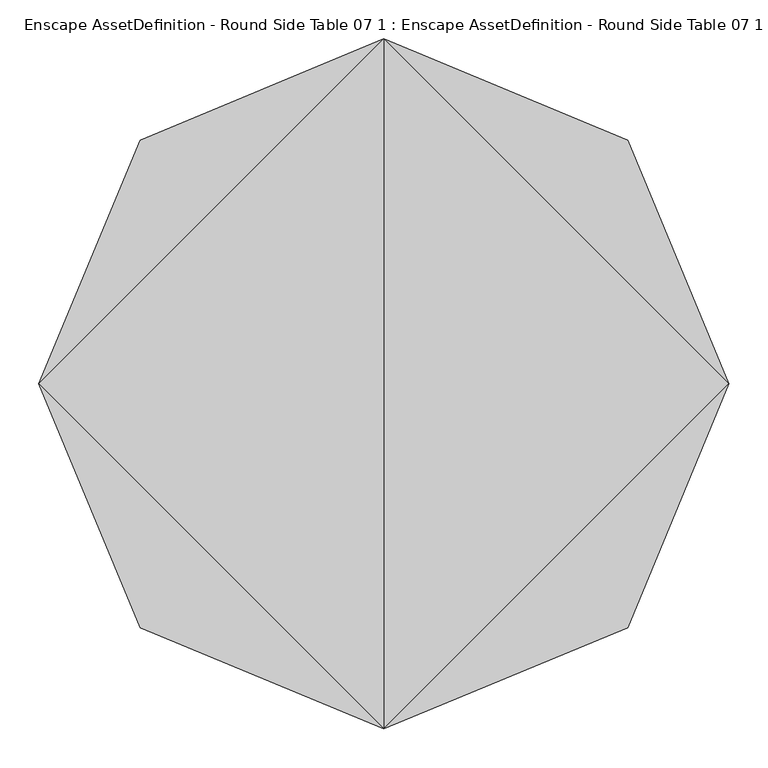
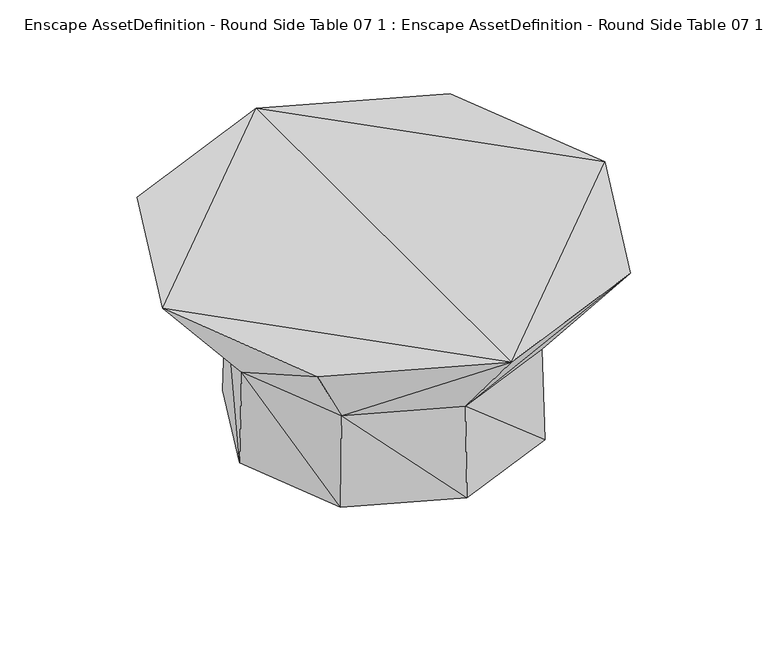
"""IFC4 building model written with IfcOpenShell, lengths in millimetres: geographic element geometry, Enscape AssetDefinition - Round Side Table 07 1 : Enscape AssetDefinition - Round Side Table 07 1."""

from ifc_helpers import new_model, si_unit, origin, place, context, project, spatial, faceted_brep, source, transform, mapped, element, save


def enscape_assetdefinition_round_side_table_07_1_enscape_1fe8cf10(model_context):
    return source(origin(), model_context, "Body", "Brep", [
        faceted_brep([(-288.9179885, 0.0, 0.0), (0.0, -288.9179885, 0.0), (-204.2962164, -204.2962164, 0.0), (288.9179885, 0.0, 0.0), (204.2962164, -204.2962164, 0.0), (-200.8368075, -200.8368075, 189.9999976), (0.0, -284.0257585, 189.9999976), (-284.0257585, 0.0, 189.9999976), (-312.9856586, -312.9856586, 379.9999952), (0.0, -442.6288009, 379.9999952), (200.8368075, -200.8368075, 189.9999976), (312.9856586, -312.9856586, 379.9999952), (284.0257585, 0.0, 189.9999976), (442.6288009, 0.0, 379.9999952), (-442.6288009, 0.0, 379.9999952), (0.0, 442.6288009, 379.9999952), (-312.9856586, 312.9856586, 379.9999952), (-200.8368075, 200.8368075, 189.9999976), (312.9856586, 312.9856586, 379.9999952), (200.8368075, 200.8368075, 189.9999976), (0.0, 284.0257585, 189.9999976), (204.2962164, 204.2962164, 0.0), (0.0, 288.9179885, 0.0), (-204.2962164, 204.2962164, 0.0)], [[[0, 1, 2]], [[3, 1, 0]], [[3, 4, 1]], [[5, 1, 6]], [[1, 5, 2]], [[4, 6, 1]], [[7, 2, 5]], [[2, 7, 0]], [[8, 7, 5]], [[5, 9, 8]], [[9, 5, 6]], [[6, 4, 10]], [[6, 11, 9]], [[11, 6, 10]], [[3, 10, 4]], [[10, 3, 12]], [[10, 13, 11]], [[13, 10, 12]], [[9, 11, 13]], [[9, 14, 8]], [[9, 15, 14]], [[9, 13, 15]], [[7, 8, 14]], [[14, 15, 16]], [[17, 14, 16]], [[14, 17, 7]], [[15, 13, 18]], [[19, 15, 18]], [[15, 19, 20]], [[20, 16, 15]], [[12, 18, 13]], [[18, 12, 19]], [[12, 21, 19]], [[19, 22, 20]], [[22, 19, 21]], [[20, 23, 17]], [[23, 20, 22]], [[16, 20, 17]], [[17, 0, 7]], [[0, 17, 23]], [[22, 0, 23]], [[3, 22, 21]], [[3, 0, 22]], [[21, 12, 3]]]),
    ])


if __name__ == "__main__":
    model = new_model("IFC4")
    model_context = context("Model", 3, world=origin())
    ifc_project = project(units=[si_unit("LENGTHUNIT", "METRE", prefix="MILLI")], contexts=[model_context])
    site = spatial("IfcSite", under=ifc_project)
    building = spatial("IfcBuilding", under=site)
    placement = place(None, origin())
    enscape_assetdefinition_round_side_table_07_1_enscape_shape = enscape_assetdefinition_round_side_table_07_1_enscape_1fe8cf10(model_context)
    element("IfcGeographicElement", 1, ObjectType="Enscape AssetDefinition - Round Side Table 07 1 : Enscape AssetDefinition - Round Side Table 07 1", at=placement, inside=building, context=model_context, shape_type="MappedRepresentation", body=[
        mapped(enscape_assetdefinition_round_side_table_07_1_enscape_shape, transform((0.0, 0.0, 0.0), x_axis=(1.0, 0.0, 0.0), y_axis=(0.0, 1.0, 0.0), z_axis=(0.0, 0.0, 1.0))),
    ])
    save(model, "model.ifc")
